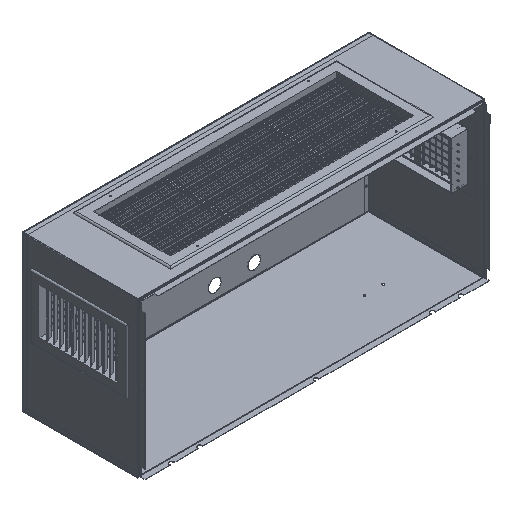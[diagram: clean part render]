
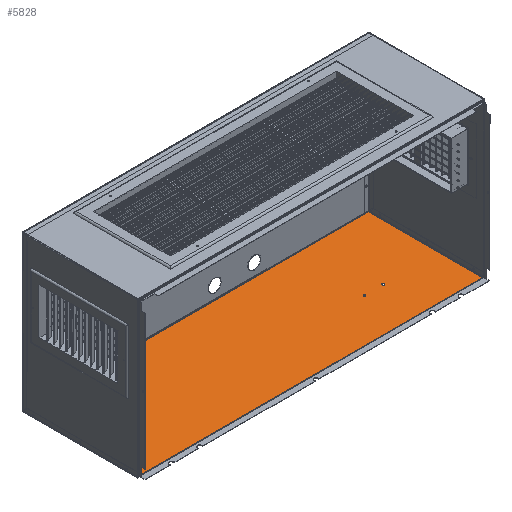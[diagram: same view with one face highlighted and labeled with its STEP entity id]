
A CAD part, isometric view. The second image highlights one B-rep face of the part: STEP entity #5828.
In plain terms, the highlighted planar face has unit normal (1, 0, 0) by its records, which use the part's own axes.
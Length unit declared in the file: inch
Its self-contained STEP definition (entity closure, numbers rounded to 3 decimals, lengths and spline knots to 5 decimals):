
#209 = ORIENTED_EDGE ( 'NONE', *, *, #21519, .F. ) ;
#360 = ORIENTED_EDGE ( 'NONE', *, *, #385, .F. ) ;
#385 = EDGE_CURVE ( 'NONE', #26760, #18415, #4394, .T. ) ;
#583 = ORIENTED_EDGE ( 'NONE', *, *, #18302, .F. ) ;
#1109 = ORIENTED_EDGE ( 'NONE', *, *, #24862, .F. ) ;
#1248 = ORIENTED_EDGE ( 'NONE', *, *, #19043, .F. ) ;
#1643 = ORIENTED_EDGE ( 'NONE', *, *, #11573, .F. ) ;
#1928 = ORIENTED_EDGE ( 'NONE', *, *, #11974, .F. ) ;
#2094 = DIRECTION ( 'NONE',  ( 0., 0., 1. ) ) ;
#2104 = DIRECTION ( 'NONE',  ( 0., 0., -1. ) ) ;
#2107 = LINE ( 'NONE', #10526, #2514 ) ;
#2134 = DIRECTION ( 'NONE',  ( 1., 0., 0. ) ) ;
#2139 = CARTESIAN_POINT ( 'NONE',  ( 10.36768, 54.64035, 8.53552 ) ) ;
#2301 = ORIENTED_EDGE ( 'NONE', *, *, #12861, .F. ) ;
#2375 = CARTESIAN_POINT ( 'NONE',  ( 10.36768, 22.08437, 0.08487 ) ) ;
#2494 = ORIENTED_EDGE ( 'NONE', *, *, #25386, .F. ) ;
#2514 = VECTOR ( 'NONE', #10633, 39.37008 ) ;
#2655 = CARTESIAN_POINT ( 'NONE',  ( 10.36768, 22.14375, 14.6769 ) ) ;
#2714 = CARTESIAN_POINT ( 'NONE',  ( 10.36768, 63.60202, 0.08552 ) ) ;
#3076 = ORIENTED_EDGE ( 'NONE', *, *, #22901, .F. ) ;
#3281 = ORIENTED_EDGE ( 'NONE', *, *, #25920, .F. ) ;
#3453 = CARTESIAN_POINT ( 'NONE',  ( 10.36768, 22.08372, 14.5519 ) ) ;
#3578 = DIRECTION ( 'NONE',  ( 0., 0., 1. ) ) ;
#3608 = ORIENTED_EDGE ( 'NONE', *, *, #13257, .F. ) ;
#3814 = ORIENTED_EDGE ( 'NONE', *, *, #18703, .F. ) ;
#4186 = AXIS2_PLACEMENT_3D ( 'NONE', #15800, #15771, #15739 ) ;
#4288 = VECTOR ( 'NONE', #14535, 39.37008 ) ;
#4394 = LINE ( 'NONE', #14850, #4288 ) ;
#4478 = VERTEX_POINT ( 'NONE', #18609 ) ;
#4732 = VERTEX_POINT ( 'NONE', #16718 ) ;
#5151 = DIRECTION ( 'NONE',  ( 0., 0., -1. ) ) ;
#5182 = DIRECTION ( 'NONE',  ( 1., 0., 0. ) ) ;
#5236 = CARTESIAN_POINT ( 'NONE',  ( 10.36768, 54.64035, 8.53552 ) ) ;
#5828 = ADVANCED_FACE ( 'NONE', ( #15876, #15757, #15764 ), #20533, .F. ) ;
#6204 = CARTESIAN_POINT ( 'NONE',  ( 10.36768, 25.40537, 0.08552 ) ) ;
#6266 = DIRECTION ( 'NONE',  ( 0., -1., 0. ) ) ;
#7314 = CARTESIAN_POINT ( 'NONE',  ( 10.36768, 54.64035, 8.66052 ) ) ;
#8517 = CIRCLE ( 'NONE', #4186, 0.125 ) ;
#8571 = CARTESIAN_POINT ( 'NONE',  ( 10.36768, 22.14375, 13.8296 ) ) ;
#9478 = EDGE_LOOP ( 'NONE', ( #360, #583, #1109, #1248, #1643, #1928, #2301, #2494, #3076, #3281, #3608, #3814 ) ) ;
#10526 = CARTESIAN_POINT ( 'NONE',  ( 10.36768, 63.60137, 0.08552 ) ) ;
#10633 = DIRECTION ( 'NONE',  ( 0., 0., -1. ) ) ;
#11404 = CARTESIAN_POINT ( 'NONE',  ( 10.36768, 22.08372, 13.82072 ) ) ;
#11573 = EDGE_CURVE ( 'NONE', #26584, #25729, #23280, .T. ) ;
#11974 = EDGE_CURVE ( 'NONE', #4732, #26584, #21203, .T. ) ;
#12035 = CARTESIAN_POINT ( 'NONE',  ( 10.36768, 63.60202, 13.82072 ) ) ;
#12789 = CARTESIAN_POINT ( 'NONE',  ( 10.36768, 56.89035, 8.41052 ) ) ;
#12861 = EDGE_CURVE ( 'NONE', #25103, #4732, #17293, .T. ) ;
#13257 = EDGE_CURVE ( 'NONE', #25701, #25989, #15912, .T. ) ;
#14002 = AXIS2_PLACEMENT_3D ( 'NONE', #20285, #20183, #20147 ) ;
#14274 = CIRCLE ( 'NONE', #16245, 0.125 ) ;
#14535 = DIRECTION ( 'NONE',  ( 0., 0., -1. ) ) ;
#14850 = CARTESIAN_POINT ( 'NONE',  ( 10.36768, 63.542, 13.96242 ) ) ;
#14861 = VERTEX_POINT ( 'NONE', #28108 ) ;
#14989 = DIRECTION ( 'NONE',  ( 0., 1., 0. ) ) ;
#15088 = CARTESIAN_POINT ( 'NONE',  ( 10.36768, 22.14375, 13.82072 ) ) ;
#15134 = CIRCLE ( 'NONE', #17749, 0.125 ) ;
#15739 = DIRECTION ( 'NONE',  ( 0., 0., -1. ) ) ;
#15757 = FACE_BOUND ( 'NONE', #18956, .T. ) ;
#15764 = FACE_OUTER_BOUND ( 'NONE', #9478, .T. ) ;
#15771 = DIRECTION ( 'NONE',  ( 1., 0., 0. ) ) ;
#15800 = CARTESIAN_POINT ( 'NONE',  ( 10.36768, 56.89035, 8.53552 ) ) ;
#15876 = FACE_BOUND ( 'NONE', #16011, .T. ) ;
#15912 = LINE ( 'NONE', #21462, #16242 ) ;
#15982 = VERTEX_POINT ( 'NONE', #22653 ) ;
#16011 = EDGE_LOOP ( 'NONE', ( #28088, #28303 ) ) ;
#16242 = VECTOR ( 'NONE', #21247, 39.37008 ) ;
#16245 = AXIS2_PLACEMENT_3D ( 'NONE', #22507, #19998, #20886 ) ;
#16686 = VERTEX_POINT ( 'NONE', #12789 ) ;
#16718 = CARTESIAN_POINT ( 'NONE',  ( 10.36768, 22.08437, 0.08552 ) ) ;
#16974 = VERTEX_POINT ( 'NONE', #7314 ) ;
#17265 = VECTOR ( 'NONE', #28009, 39.37008 ) ;
#17293 = LINE ( 'NONE', #28342, #17265 ) ;
#17749 = AXIS2_PLACEMENT_3D ( 'NONE', #2139, #2134, #2104 ) ;
#18302 = EDGE_CURVE ( 'NONE', #28115, #26760, #23822, .T. ) ;
#18415 = VERTEX_POINT ( 'NONE', #25408 ) ;
#18609 = CARTESIAN_POINT ( 'NONE',  ( 10.36768, 63.60137, 0.08552 ) ) ;
#18703 = EDGE_CURVE ( 'NONE', #18415, #25701, #21615, .T. ) ;
#18956 = EDGE_LOOP ( 'NONE', ( #28532, #209 ) ) ;
#19043 = EDGE_CURVE ( 'NONE', #25729, #20972, #19560, .T. ) ;
#19471 = VECTOR ( 'NONE', #14989, 39.37008 ) ;
#19560 = LINE ( 'NONE', #15088, #19471 ) ;
#19916 = EDGE_CURVE ( 'NONE', #14861, #16974, #15134, .T. ) ;
#19998 = DIRECTION ( 'NONE',  ( 1., 0., 0. ) ) ;
#20133 = EDGE_CURVE ( 'NONE', #16686, #15982, #14274, .T. ) ;
#20147 = DIRECTION ( 'NONE',  ( 0., 0., 1. ) ) ;
#20183 = DIRECTION ( 'NONE',  ( -1., 0., 0. ) ) ;
#20285 = CARTESIAN_POINT ( 'NONE',  ( 10.36768, 25.40537, 14.5519 ) ) ;
#20533 = PLANE ( 'NONE',  #14002 ) ;
#20886 = DIRECTION ( 'NONE',  ( 0., 0., -1. ) ) ;
#20972 = VERTEX_POINT ( 'NONE', #27456 ) ;
#21056 = VECTOR ( 'NONE', #22485, 39.37008 ) ;
#21066 = DIRECTION ( 'NONE',  ( 0., 1., 0. ) ) ;
#21103 = CARTESIAN_POINT ( 'NONE',  ( 10.36768, 64.17835, 13.82072 ) ) ;
#21203 = LINE ( 'NONE', #22531, #21056 ) ;
#21247 = DIRECTION ( 'NONE',  ( 0., 0., -1. ) ) ;
#21462 = CARTESIAN_POINT ( 'NONE',  ( 10.36768, 63.60202, 14.5519 ) ) ;
#21519 = EDGE_CURVE ( 'NONE', #15982, #16686, #8517, .T. ) ;
#21615 = LINE ( 'NONE', #21103, #21795 ) ;
#21795 = VECTOR ( 'NONE', #21066, 39.37008 ) ;
#22216 = CARTESIAN_POINT ( 'NONE',  ( 10.36768, 63.542, 13.8296 ) ) ;
#22485 = DIRECTION ( 'NONE',  ( 0., -1., 0. ) ) ;
#22507 = CARTESIAN_POINT ( 'NONE',  ( 10.36768, 56.89035, 8.53552 ) ) ;
#22531 = CARTESIAN_POINT ( 'NONE',  ( 10.36768, 25.40537, 0.08552 ) ) ;
#22653 = CARTESIAN_POINT ( 'NONE',  ( 10.36768, 56.89035, 8.66052 ) ) ;
#22761 = VERTEX_POINT ( 'NONE', #23591 ) ;
#22901 = EDGE_CURVE ( 'NONE', #4478, #22761, #2107, .T. ) ;
#22954 = VECTOR ( 'NONE', #6266, 39.37008 ) ;
#23153 = LINE ( 'NONE', #6204, #22954 ) ;
#23280 = LINE ( 'NONE', #3453, #23498 ) ;
#23498 = VECTOR ( 'NONE', #3578, 39.37008 ) ;
#23591 = CARTESIAN_POINT ( 'NONE',  ( 10.36768, 63.60137, 0.08487 ) ) ;
#23609 = CARTESIAN_POINT ( 'NONE',  ( 10.36768, 22.08372, 0.08552 ) ) ;
#23714 = AXIS2_PLACEMENT_3D ( 'NONE', #5236, #5182, #5151 ) ;
#23822 = LINE ( 'NONE', #27670, #23830 ) ;
#23830 = VECTOR ( 'NONE', #27487, 39.37008 ) ;
#23943 = CARTESIAN_POINT ( 'NONE',  ( 10.36768, 1.32574, 0.08487 ) ) ;
#24367 = EDGE_CURVE ( 'NONE', #16974, #14861, #27099, .T. ) ;
#24427 = VECTOR ( 'NONE', #25178, 39.37008 ) ;
#24482 = LINE ( 'NONE', #23943, #24427 ) ;
#24862 = EDGE_CURVE ( 'NONE', #20972, #28115, #25786, .T. ) ;
#25103 = VERTEX_POINT ( 'NONE', #2375 ) ;
#25178 = DIRECTION ( 'NONE',  ( 0., -1., 0. ) ) ;
#25386 = EDGE_CURVE ( 'NONE', #22761, #25103, #24482, .T. ) ;
#25408 = CARTESIAN_POINT ( 'NONE',  ( 10.36768, 63.542, 13.82072 ) ) ;
#25685 = VECTOR ( 'NONE', #2094, 39.37008 ) ;
#25701 = VERTEX_POINT ( 'NONE', #12035 ) ;
#25729 = VERTEX_POINT ( 'NONE', #11404 ) ;
#25786 = LINE ( 'NONE', #2655, #25685 ) ;
#25920 = EDGE_CURVE ( 'NONE', #25989, #4478, #23153, .T. ) ;
#25989 = VERTEX_POINT ( 'NONE', #2714 ) ;
#26584 = VERTEX_POINT ( 'NONE', #23609 ) ;
#26760 = VERTEX_POINT ( 'NONE', #22216 ) ;
#27099 = CIRCLE ( 'NONE', #23714, 0.125 ) ;
#27456 = CARTESIAN_POINT ( 'NONE',  ( 10.36768, 22.14375, 13.82072 ) ) ;
#27487 = DIRECTION ( 'NONE',  ( 0., 1., 0. ) ) ;
#27670 = CARTESIAN_POINT ( 'NONE',  ( 10.36768, 25.40537, 13.8296 ) ) ;
#28009 = DIRECTION ( 'NONE',  ( 0., 0., 1. ) ) ;
#28088 = ORIENTED_EDGE ( 'NONE', *, *, #19916, .F. ) ;
#28108 = CARTESIAN_POINT ( 'NONE',  ( 10.36768, 54.64035, 8.41052 ) ) ;
#28115 = VERTEX_POINT ( 'NONE', #8571 ) ;
#28303 = ORIENTED_EDGE ( 'NONE', *, *, #24367, .F. ) ;
#28342 = CARTESIAN_POINT ( 'NONE',  ( 10.36768, 22.08437, 0.08552 ) ) ;
#28532 = ORIENTED_EDGE ( 'NONE', *, *, #20133, .F. ) ;
